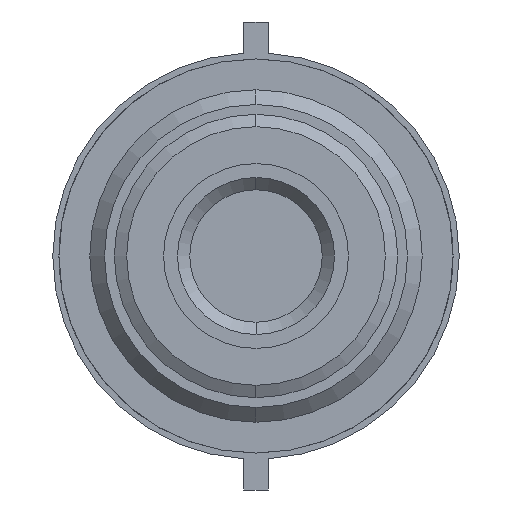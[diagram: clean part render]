
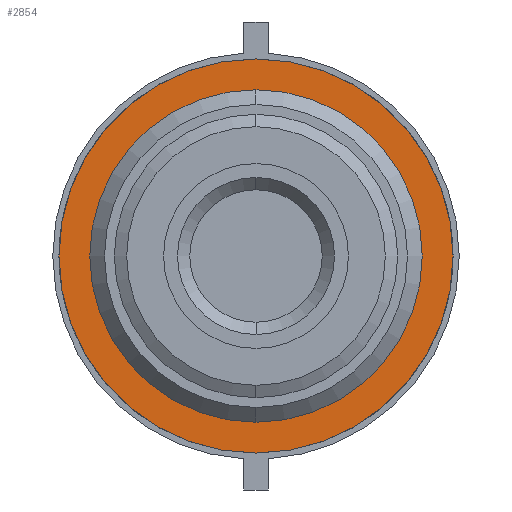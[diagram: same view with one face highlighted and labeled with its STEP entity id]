
A CAD part, left-side view. The second image highlights one B-rep face of the part: STEP entity #2854.
In plain terms, the highlighted planar face has unit normal (-1, 0, 0).
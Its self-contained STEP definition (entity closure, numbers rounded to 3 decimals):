
#1319=CARTESIAN_POINT('',(70.,0.,0.));
#1320=DIRECTION('',(1.,0.,0.));
#1321=DIRECTION('',(0.,0.,-1.));
#1322=AXIS2_PLACEMENT_3D('',#1319,#1320,#1321);
#1324=CARTESIAN_POINT('',(70.,0.,0.));
#1325=DIRECTION('',(1.,0.,0.));
#1326=DIRECTION('',(0.,0.,1.));
#1327=AXIS2_PLACEMENT_3D('',#1324,#1325,#1326);
#1329=CARTESIAN_POINT('',(70.,0.,0.));
#1330=DIRECTION('',(-1.,0.,0.));
#1331=DIRECTION('',(0.,0.,-1.));
#1332=AXIS2_PLACEMENT_3D('',#1329,#1330,#1331);
#1334=CARTESIAN_POINT('',(70.,0.,0.));
#1335=DIRECTION('',(-1.,0.,0.));
#1336=DIRECTION('',(0.,0.,1.));
#1337=AXIS2_PLACEMENT_3D('',#1334,#1335,#1336);
#1637=CARTESIAN_POINT('',(70.,0.,16.));
#1638=VERTEX_POINT('',#1637);
#1639=CARTESIAN_POINT('',(70.,0.,-16.));
#1640=VERTEX_POINT('',#1639);
#1643=CARTESIAN_POINT('',(70.,0.,-12.1));
#1644=CARTESIAN_POINT('',(70.,0.,12.1));
#1645=VERTEX_POINT('',#1643);
#1646=VERTEX_POINT('',#1644);
#2839=CARTESIAN_POINT('',(70.,0.,0.));
#2840=DIRECTION('',(1.,0.,0.));
#2841=DIRECTION('',(0.,0.,1.));
#2842=AXIS2_PLACEMENT_3D('',#2839,#2840,#2841);
#2843=PLANE('',#2842);
#2845=ORIENTED_EDGE('',*,*,#2844,.T.);
#2847=ORIENTED_EDGE('',*,*,#2846,.T.);
#2848=EDGE_LOOP('',(#2845,#2847));
#2849=FACE_OUTER_BOUND('',#2848,.F.);
#2850=ORIENTED_EDGE('',*,*,#2821,.T.);
#2851=ORIENTED_EDGE('',*,*,#2832,.T.);
#2852=EDGE_LOOP('',(#2850,#2851));
#2853=FACE_BOUND('',#2852,.F.);
#1323=CIRCLE('',#1322,16.);
#1328=CIRCLE('',#1327,16.);
#1333=CIRCLE('',#1332,12.1);
#1338=CIRCLE('',#1337,12.1);
#2821=EDGE_CURVE('',#1645,#1646,#1333,.T.);
#2832=EDGE_CURVE('',#1646,#1645,#1338,.T.);
#2844=EDGE_CURVE('',#1640,#1638,#1323,.T.);
#2846=EDGE_CURVE('',#1638,#1640,#1328,.T.);
#2854=ADVANCED_FACE('',(#2849,#2853),#2843,.F.);
